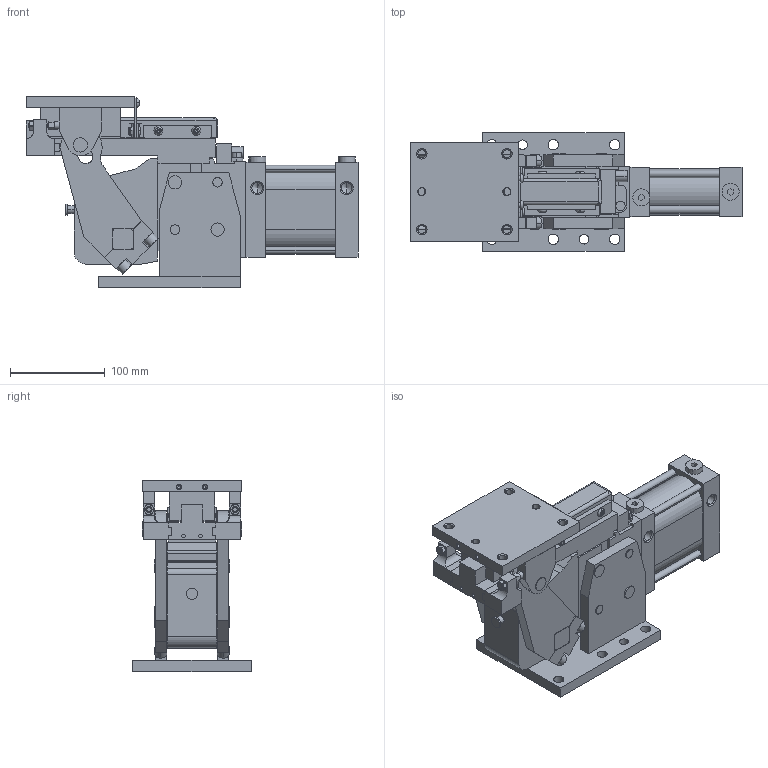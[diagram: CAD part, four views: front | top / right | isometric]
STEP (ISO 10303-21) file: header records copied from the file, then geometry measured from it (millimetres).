
FILE_DESCRIPTION (( 'STEP AP214' ), '1' );
FILE_NAME ('slcp63_90_xx_f_s2.STEP', '2019-09-19T12:51:42', ( '' ), ( '' ), 'SwSTEP 2.0', 'SolidWorks 2019', '' );
FILE_SCHEMA (( 'AUTOMOTIVE_DESIGN' ));
Length unit declared in the file: millimetre
Products named in the file (9): staffa_reazione_sinistra_slcp63_sx; tappo cil G1_4 din908_rondella rame; blocchetto_VEP_0; slcp63_90_xx_f_s2; leva_slcp63; staffa_reazione_destra_slcp63_dx; riparo_binario_post_slcp63; slcp63_90_xx_x_x; piastra_superiore_slcp63
Assembly tree (9 placements, depth 2):
  slcp63_90_xx_f_s2
    slcp63_90_xx_x_x
    piastra_superiore_slcp63
    leva_slcp63
    blocchetto_VEP_0
    staffa_reazione_destra_slcp63_dx
    staffa_reazione_sinistra_slcp63_sx
    tappo cil G1_4 din908_rondella rame  x2
    riparo_binario_post_slcp63
Bounding box: 351 x 125 x 202.5 mm (x, y, z)
Volume: 2715194.8 mm3; surface area: 377746.1 mm2
Topology: 34 solids, 48 shells, 1252 faces, 3031 edges, 1867 vertices
Faces by surface type: plane 561, cylinder 359, cone 304, torus 28
Entity records: 42870 total; most frequent: CARTESIAN_POINT 7118, DIRECTION 6281, ORIENTED_EDGE 5850, EDGE_CURVE 2925, AXIS2_PLACEMENT_3D 2302, VERTEX_POINT 1847, VECTOR 1677, LINE 1677
